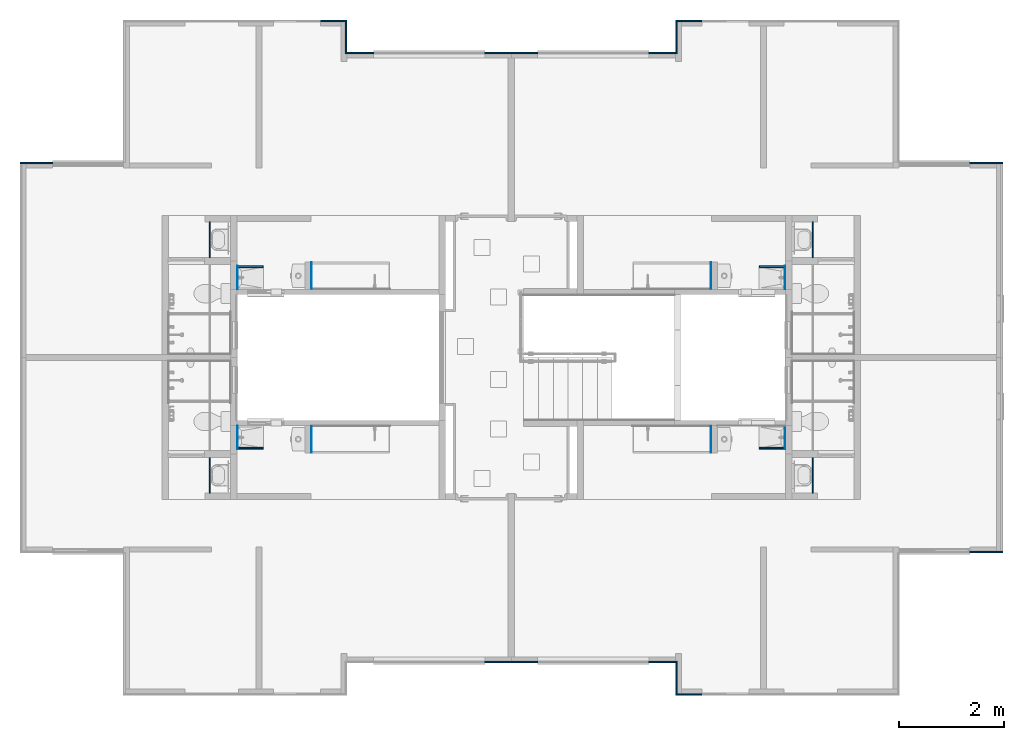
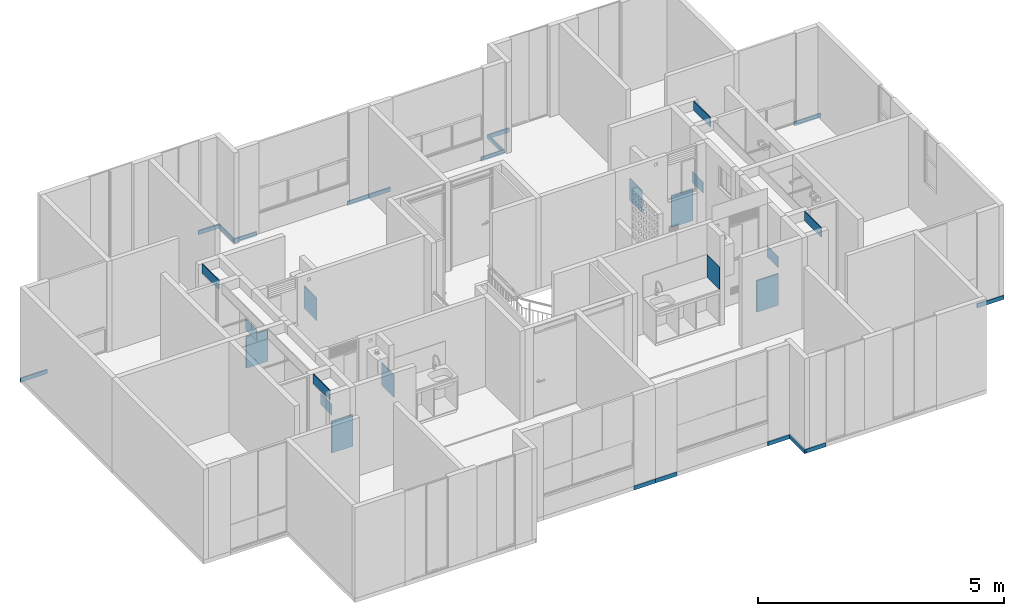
# One storey, part 28 of 47: 32 walls.
"""IFC4 building model written with IfcOpenShell, lengths in metres."""

from ifc_helpers import new_model, entity, si_unit, converted_unit, derived_unit, direction, frame, origin, place, context, subcontext, project, spatial, indexed_curve, outline, extrude, material, constituent, constituent_set, type_object, element, save


model = new_model("IFC4")

# Units and contexts
model_context = context("Model", 3, precision=1e-05, world=origin(), true_north=direction((6.123031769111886e-17, 1.0)))
body_context = subcontext(model_context, "Body", "Model", "MODEL_VIEW")
ifc_project = project(units=[si_unit("LENGTHUNIT", "METRE"), si_unit("AREAUNIT", "SQUARE_METRE"), si_unit("VOLUMEUNIT", "CUBIC_METRE"), converted_unit("PLANEANGLEUNIT", "DEGREE", entity("IfcRatioMeasure", 0.017453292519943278), si_unit("PLANEANGLEUNIT", "RADIAN"), dimensions=[0, 0, 0, 0, 0, 0, 0]), si_unit("MASSUNIT", "GRAM", prefix="KILO"), derived_unit("MASSDENSITYUNIT", [(si_unit("MASSUNIT", "GRAM", prefix="KILO"), 1), (si_unit("LENGTHUNIT", "METRE"), -3)]), derived_unit("IONCONCENTRATIONUNIT", [(si_unit("MASSUNIT", "GRAM", prefix="KILO"), 1), (si_unit("LENGTHUNIT", "METRE"), -3)]), derived_unit("MOMENTOFINERTIAUNIT", [(si_unit("LENGTHUNIT", "METRE"), 4)]), si_unit("TIMEUNIT", "SECOND"), si_unit("FREQUENCYUNIT", "HERTZ"), si_unit("THERMODYNAMICTEMPERATUREUNIT", "DEGREE_CELSIUS"), derived_unit("THERMALTRANSMITTANCEUNIT", [(si_unit("MASSUNIT", "GRAM", prefix="KILO"), 1), (si_unit("THERMODYNAMICTEMPERATUREUNIT", "KELVIN"), -1), (si_unit("TIMEUNIT", "SECOND"), -3)]), derived_unit("THERMALCONDUCTANCEUNIT", [(si_unit("MASSUNIT", "GRAM", prefix="KILO"), 1), (si_unit("THERMODYNAMICTEMPERATUREUNIT", "KELVIN"), -1), (si_unit("TIMEUNIT", "SECOND"), -3), (si_unit("LENGTHUNIT", "METRE"), 1)]), derived_unit("VOLUMETRICFLOWRATEUNIT", [(si_unit("LENGTHUNIT", "METRE"), 3), (si_unit("TIMEUNIT", "SECOND"), -1)]), derived_unit("MASSFLOWRATEUNIT", [(si_unit("MASSUNIT", "GRAM", prefix="KILO"), 1), (si_unit("TIMEUNIT", "SECOND"), -1)]), derived_unit("ROTATIONALFREQUENCYUNIT", [(si_unit("TIMEUNIT", "SECOND"), -1)]), si_unit("ELECTRICCURRENTUNIT", "AMPERE"), si_unit("ELECTRICVOLTAGEUNIT", "VOLT"), si_unit("POWERUNIT", "WATT"), si_unit("FORCEUNIT", "NEWTON", prefix="KILO"), si_unit("ILLUMINANCEUNIT", "LUX"), si_unit("LUMINOUSFLUXUNIT", "LUMEN"), si_unit("LUMINOUSINTENSITYUNIT", "CANDELA"), derived_unit("USERDEFINED", [(si_unit("MASSUNIT", "GRAM", prefix="KILO"), -1), (si_unit("LENGTHUNIT", "METRE"), -2), (si_unit("TIMEUNIT", "SECOND"), 3), (si_unit("LUMINOUSFLUXUNIT", "LUMEN"), 1)]), derived_unit("USERDEFINED", [(si_unit("MASSUNIT", "GRAM", prefix="KILO"), 1), (si_unit("TIMEUNIT", "SECOND"), -3), (si_unit("LENGTHUNIT", "METRE"), 3), (si_unit("ELECTRICCURRENTUNIT", "AMPERE"), -2)]), derived_unit("SOUNDPOWERUNIT", [(si_unit("MASSUNIT", "GRAM", prefix="KILO"), 1), (si_unit("TIMEUNIT", "SECOND"), -3), (si_unit("LENGTHUNIT", "METRE"), 2)]), derived_unit("SOUNDPRESSUREUNIT", [(si_unit("MASSUNIT", "GRAM", prefix="KILO"), 1), (si_unit("LENGTHUNIT", "METRE"), -1), (si_unit("TIMEUNIT", "SECOND"), -2)]), derived_unit("LINEARVELOCITYUNIT", [(si_unit("LENGTHUNIT", "METRE"), 1), (si_unit("TIMEUNIT", "SECOND"), -1)]), si_unit("PRESSUREUNIT", "PASCAL"), derived_unit("USERDEFINED", [(si_unit("MASSUNIT", "GRAM", prefix="KILO"), 1), (si_unit("LENGTHUNIT", "METRE"), -2), (si_unit("TIMEUNIT", "SECOND"), -2)]), derived_unit("LINEARFORCEUNIT", [(si_unit("MASSUNIT", "GRAM", prefix="KILO"), 1), (si_unit("TIMEUNIT", "SECOND"), -2)]), derived_unit("PLANARFORCEUNIT", [(si_unit("MASSUNIT", "GRAM", prefix="KILO"), 1), (si_unit("LENGTHUNIT", "METRE"), -1), (si_unit("TIMEUNIT", "SECOND"), -2)]), derived_unit("SPECIFICHEATCAPACITYUNIT", [(si_unit("THERMODYNAMICTEMPERATUREUNIT", "KELVIN"), -1), (si_unit("LENGTHUNIT", "METRE"), 2), (si_unit("TIMEUNIT", "SECOND"), -2)]), derived_unit("HEATINGVALUEUNIT", [(si_unit("LENGTHUNIT", "METRE"), 2), (si_unit("TIMEUNIT", "SECOND"), -2)]), derived_unit("VAPORPERMEABILITYUNIT", [(si_unit("LENGTHUNIT", "METRE"), -1), (si_unit("TIMEUNIT", "SECOND"), 1)]), derived_unit("DYNAMICVISCOSITYUNIT", [(si_unit("MASSUNIT", "GRAM", prefix="KILO"), 1), (si_unit("TIMEUNIT", "SECOND"), -1), (si_unit("LENGTHUNIT", "METRE"), -1)]), derived_unit("THERMALEXPANSIONCOEFFICIENTUNIT", [(si_unit("THERMODYNAMICTEMPERATUREUNIT", "KELVIN"), -1)]), derived_unit("MODULUSOFELASTICITYUNIT", [(si_unit("MASSUNIT", "GRAM", prefix="KILO"), 1), (si_unit("LENGTHUNIT", "METRE"), -1), (si_unit("TIMEUNIT", "SECOND"), -2)]), derived_unit("ISOTHERMALMOISTURECAPACITYUNIT", [(si_unit("LENGTHUNIT", "METRE"), 3), (si_unit("MASSUNIT", "GRAM", prefix="KILO"), -1)]), derived_unit("MOISTUREDIFFUSIVITYUNIT", [(si_unit("TIMEUNIT", "SECOND"), -1), (si_unit("LENGTHUNIT", "METRE"), 2)])], contexts=[model_context])

# Site, building, storey
site_placement = place(None, origin())
site = spatial("IfcSite", under=ifc_project, at=site_placement, Name="Default", CompositionType="ELEMENT")
building_placement = place(site_placement, origin())
building = spatial("IfcBuilding", under=site, at=building_placement, CompositionType="ELEMENT")
storey_placement = place(building_placement, frame((0.0, 0.0, 11.750000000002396)))
storey = spatial("IfcBuildingStorey", under=building, at=storey_placement, Name="Nivel 6", CompositionType="ELEMENT", Elevation=11.750000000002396)

# Walls
ifc_material_1 = material(Name="Plasterboard", Category="Materials")
wall_type_1 = type_object("IfcWallType", Name="Basic Wall:C1070 - 0.02m - Plafón - Drywall", PredefinedType="STANDARD")
wall_1_placement = place(storey_placement, frame((3.5624999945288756, -4.515000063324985, 2.019999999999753), z_axis=(0.0, 0.0, 1.0), x_axis=(0.0, 1.0, 0.0)))
element("IfcWall", 1, at=wall_1_placement, inside=storey, type_object=wall_type_1, material=ifc_material_1, Name="Basic Wall:C1070 - 0.02m - Plafón - Drywall", ObjectType="Basic Wall:C1070 - 0.02m - Plafón - Drywall", PredefinedType="NOTDEFINED", context=body_context, shape_type="SweptSolid", body=[
    extrude(outline(indexed_curve([(0.6800000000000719, 0.009999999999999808), (8.086221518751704e-17, 0.009999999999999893), (-8.086221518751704e-17, -0.009999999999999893), (0.6800000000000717, -0.009999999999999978), (0.6800000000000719, 0.009999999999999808)], self_intersect=False)), origin(), (0.0, 0.0, 1.0), 0.23000000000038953),
])
wall_2_placement = place(storey_placement, frame((3.5624999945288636, -8.334999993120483, 2.019999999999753), z_axis=(0.0, 0.0, 1.0), x_axis=(0.0, -1.0, 0.0)))
element("IfcWall", 2, at=wall_2_placement, inside=storey, type_object=wall_type_1, material=ifc_material_1, Name="Basic Wall:C1070 - 0.02m - Plafón - Drywall", ObjectType="Basic Wall:C1070 - 0.02m - Plafón - Drywall", PredefinedType="NOTDEFINED", context=body_context, shape_type="SweptSolid", body=[
    extrude(outline(indexed_curve([(0.6800000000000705, 0.009999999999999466), (-1.4500026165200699e-16, 0.009999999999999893), (1.4500026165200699e-16, -0.009999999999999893), (0.6800000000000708, -0.01000000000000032), (0.6800000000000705, 0.009999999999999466)], self_intersect=False)), origin(), (0.0, 0.0, 1.0), 0.23000000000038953),
])
wall_3_placement = place(storey_placement, frame((15.082500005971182, -4.515000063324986, 2.019999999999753), z_axis=(0.0, 0.0, 1.0), x_axis=(0.0, 1.0, 0.0)))
element("IfcWall", 3, at=wall_3_placement, inside=storey, type_object=wall_type_1, material=ifc_material_1, Name="Basic Wall:C1070 - 0.02m - Plafón - Drywall", ObjectType="Basic Wall:C1070 - 0.02m - Plafón - Drywall", PredefinedType="NOTDEFINED", context=body_context, shape_type="SweptSolid", body=[
    extrude(outline(indexed_curve([(0.6800000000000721, 0.01000000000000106), (-8.086221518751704e-17, 0.009999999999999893), (8.086221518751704e-17, -0.009999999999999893), (0.6800000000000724, -0.009999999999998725), (0.6800000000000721, 0.01000000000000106)], self_intersect=False)), origin(), (0.0, 0.0, 1.0), 0.23000000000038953),
])
wall_4_placement = place(storey_placement, frame((15.082500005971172, -8.334999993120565, 2.019999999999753), z_axis=(0.0, 0.0, 1.0), x_axis=(0.0, -1.0, 0.0)))
element("IfcWall", 4, at=wall_4_placement, inside=storey, type_object=wall_type_1, material=ifc_material_1, Name="Basic Wall:C1070 - 0.02m - Plafón - Drywall", ObjectType="Basic Wall:C1070 - 0.02m - Plafón - Drywall", PredefinedType="NOTDEFINED", context=body_context, shape_type="SweptSolid", body=[
    extrude(outline(indexed_curve([(0.6800000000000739, 0.009999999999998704), (1.74650790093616e-17, 0.009999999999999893), (-1.74650790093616e-17, -0.009999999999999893), (0.6800000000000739, -0.010000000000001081), (0.6800000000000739, 0.009999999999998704)], self_intersect=False)), origin(), (0.0, 0.0, 1.0), 0.23000000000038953),
])
ifc_material_2 = material(Name="Ceramica Salpicadero 0.28m x 0.45m", Category="Materials")
wall_type_2 = type_object("IfcWallType", Name="Basic Wall:C2010 - 0.28 x 0.45 - Salpicadero - Cerámica", PredefinedType="STANDARD")
wall_5_placement = place(storey_placement, frame((4.092499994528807, -4.67500002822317, 0.9299999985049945), z_axis=(0.0, 0.0, 1.0), x_axis=(0.0, -1.0, 0.0)))
element("IfcWall", 5, at=wall_5_placement, inside=storey, type_object=wall_type_2, material=ifc_material_2, Name="Basic Wall:C2010 - 0.28 x 0.45 - Salpicadero - Cerámica", ObjectType="Basic Wall:C2010 - 0.28 x 0.45 - Salpicadero - Cerámica", PredefinedType="NOTDEFINED", context=body_context, shape_type="SweptSolid", body=[
    extrude(outline(indexed_curve([(0.44949999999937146, 0.004999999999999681), (-8.738326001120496e-17, 0.004999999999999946), (8.738326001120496e-17, -0.004999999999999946), (0.4494999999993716, -0.005000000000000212), (0.44949999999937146, 0.004999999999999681)], self_intersect=False)), origin(), (0.0, 0.0, 1.0), 0.28000000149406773),
])
wall_6_placement = place(storey_placement, frame((4.092499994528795, -8.175000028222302, 0.9299999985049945), z_axis=(0.0, 0.0, 1.0), x_axis=(0.0, 1.0, 0.0)))
element("IfcWall", 6, at=wall_6_placement, inside=storey, type_object=wall_type_2, material=ifc_material_2, Name="Basic Wall:C2010 - 0.28 x 0.45 - Salpicadero - Cerámica", ObjectType="Basic Wall:C2010 - 0.28 x 0.45 - Salpicadero - Cerámica", PredefinedType="NOTDEFINED", context=body_context, shape_type="SweptSolid", body=[
    extrude(outline(indexed_curve([(0.4494999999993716, 0.004999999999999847), (5.531423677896e-17, 0.004999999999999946), (-5.531423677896e-17, -0.004999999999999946), (0.44949999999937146, -0.005000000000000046), (0.4494999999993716, 0.004999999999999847)], self_intersect=False)), origin(), (0.0, 0.0, 1.0), 0.28000000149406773),
])
wall_7_placement = place(storey_placement, frame((14.55250000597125, -4.67500002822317, 0.9299999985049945), z_axis=(0.0, 0.0, 1.0), x_axis=(0.0, -1.0, 0.0)))
element("IfcWall", 7, at=wall_7_placement, inside=storey, type_object=wall_type_2, material=ifc_material_2, Name="Basic Wall:C2010 - 0.28 x 0.45 - Salpicadero - Cerámica", ObjectType="Basic Wall:C2010 - 0.28 x 0.45 - Salpicadero - Cerámica", PredefinedType="NOTDEFINED", context=body_context, shape_type="SweptSolid", body=[
    extrude(outline(indexed_curve([(0.4494999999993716, 0.005000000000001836), (8.738326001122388e-17, 0.005000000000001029), (-8.738326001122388e-17, -0.005000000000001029), (0.44949999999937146, -0.005000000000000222), (0.4494999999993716, 0.005000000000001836)], self_intersect=False)), origin(), (0.0, 0.0, 1.0), 0.28000000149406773),
])
wall_8_placement = place(storey_placement, frame((14.55250000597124, -8.175000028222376, 0.9299999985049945), z_axis=(0.0, 0.0, 1.0), x_axis=(0.0, 1.0, 0.0)))
element("IfcWall", 8, at=wall_8_placement, inside=storey, type_object=wall_type_2, material=ifc_material_2, Name="Basic Wall:C2010 - 0.28 x 0.45 - Salpicadero - Cerámica", ObjectType="Basic Wall:C2010 - 0.28 x 0.45 - Salpicadero - Cerámica", PredefinedType="NOTDEFINED", context=body_context, shape_type="SweptSolid", body=[
    extrude(outline(indexed_curve([(0.4494999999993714, 0.005000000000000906), (-1.1908182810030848e-16, 0.005000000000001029), (1.1908182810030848e-16, -0.005000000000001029), (0.4494999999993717, -0.005000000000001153), (0.4494999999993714, 0.005000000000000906)], self_intersect=False)), origin(), (0.0, 0.0, 1.0), 0.28000000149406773),
])
wall_9_placement = place(storey_placement, frame((5.507499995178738, -4.605000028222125, 0.9299999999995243), z_axis=(0.0, 0.0, 1.0), x_axis=(0.0, -1.0, 0.0)))
element("IfcWall", 9, at=wall_9_placement, inside=storey, type_object=wall_type_2, material=ifc_material_2, Name="Basic Wall:C2010 - 0.28 x 0.45 - Salpicadero - Cerámica", ObjectType="Basic Wall:C2010 - 0.28 x 0.45 - Salpicadero - Cerámica", PredefinedType="NOTDEFINED", context=body_context, shape_type="SweptSolid", body=[
    extrude(outline(indexed_curve([(0.5100000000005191, 0.005000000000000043), (-2.217940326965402e-17, 0.004999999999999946), (2.217940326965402e-17, -0.004999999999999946), (0.5100000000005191, -0.00499999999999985), (0.5100000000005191, 0.005000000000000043)], self_intersect=False)), origin(), (0.0, 0.0, 1.0), 0.5599999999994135),
])
wall_10_placement = place(storey_placement, frame((5.507499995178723, -8.245000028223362, 0.9299999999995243), z_axis=(0.0, 0.0, 1.0), x_axis=(0.0, 1.0, 0.0)))
element("IfcWall", 10, at=wall_10_placement, inside=storey, type_object=wall_type_2, material=ifc_material_2, Name="Basic Wall:C2010 - 0.28 x 0.45 - Salpicadero - Cerámica", ObjectType="Basic Wall:C2010 - 0.28 x 0.45 - Salpicadero - Cerámica", PredefinedType="NOTDEFINED", context=body_context, shape_type="SweptSolid", body=[
    extrude(outline(indexed_curve([(0.5100000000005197, 0.0049999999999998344), (-9.519164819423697e-18, 0.004999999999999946), (9.519164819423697e-18, -0.004999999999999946), (0.5100000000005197, -0.005000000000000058), (0.5100000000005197, 0.0049999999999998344)], self_intersect=False)), origin(), (0.0, 0.0, 1.0), 0.5599999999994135),
])
wall_11_placement = place(storey_placement, frame((13.13750000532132, -4.605000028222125, 0.9299999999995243), z_axis=(0.0, 0.0, 1.0), x_axis=(0.0, -1.0, 0.0)))
element("IfcWall", 11, at=wall_11_placement, inside=storey, type_object=wall_type_2, material=ifc_material_2, Name="Basic Wall:C2010 - 0.28 x 0.45 - Salpicadero - Cerámica", ObjectType="Basic Wall:C2010 - 0.28 x 0.45 - Salpicadero - Cerámica", PredefinedType="NOTDEFINED", context=body_context, shape_type="SweptSolid", body=[
    extrude(outline(indexed_curve([(0.5100000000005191, 0.0050000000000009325), (2.2179403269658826e-17, 0.005000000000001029), (-2.2179403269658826e-17, -0.005000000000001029), (0.5100000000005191, -0.005000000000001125), (0.5100000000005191, 0.0050000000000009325)], self_intersect=False)), origin(), (0.0, 0.0, 1.0), 0.5599999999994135),
])
wall_12_placement = place(storey_placement, frame((13.137500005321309, -8.245000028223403, 0.9299999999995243), z_axis=(0.0, 0.0, 1.0), x_axis=(0.0, 1.0, 0.0)))
element("IfcWall", 12, at=wall_12_placement, inside=storey, type_object=wall_type_2, material=ifc_material_2, Name="Basic Wall:C2010 - 0.28 x 0.45 - Salpicadero - Cerámica", ObjectType="Basic Wall:C2010 - 0.28 x 0.45 - Salpicadero - Cerámica", PredefinedType="NOTDEFINED", context=body_context, shape_type="SweptSolid", body=[
    extrude(outline(indexed_curve([(0.5100000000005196, 0.00499999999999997), (-5.3311001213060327e-17, 0.005000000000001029), (5.3311001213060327e-17, -0.005000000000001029), (0.5100000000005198, -0.005000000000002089), (0.5100000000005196, 0.00499999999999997)], self_intersect=False)), origin(), (0.0, 0.0, 1.0), 0.5599999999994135),
])
ifc_material_3 = material(Name="Estuco y pintura", Category="Materials")
ifc_constituent_1 = constituent(ifc_material_3, Name="Estuco y pintura", Category="Materials")
ifc_material_4 = material(Name="0 muro divisorio", Category="Materials")
ifc_constituent_2 = constituent(ifc_material_4, Name="0 muro divisorio", Category="Materials")
ifc_constituent_3 = constituent(ifc_material_3, Name="Estuco y pintura (2)", Category="Materials")
ifc_constituent_set = constituent_set(constituents=[ifc_constituent_1, ifc_constituent_2, ifc_constituent_3], Name="Basic Wall:B2010 - 0.03m - Muro interior en estuco+pintura+ concreto+ estuco+ pintura")
wall_type_3 = type_object("IfcWallType", Name="Basic Wall:B2010 - 0.03m - Muro interior en estuco+pintura+ concreto+ estuco+ pintura", PredefinedType="STANDARD", material=ifc_constituent_set)
wall_13_placement = place(storey_placement, frame((4.087499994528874, -4.6920000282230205, 0.0)))
element("IfcWall", 13, at=wall_13_placement, inside=storey, type_object=wall_type_3, material=ifc_constituent_set, Name="Basic Wall:B2010 - 0.03m - Muro interior en estuco+pintura+ concreto+ estuco+ pintura", ObjectType="Basic Wall:B2010 - 0.03m - Muro interior en estuco+pintura+ concreto+ estuco+ pintura", PredefinedType="NOTDEFINED", context=body_context, shape_type="SweptSolid", body=[
    extrude(outline(indexed_curve([(-0.0009999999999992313, -0.25000023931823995), (0.0010000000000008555, -0.25000023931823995), (0.0009999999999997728, 0.2500002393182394), (-0.001000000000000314, 0.2500002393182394), (-0.0009999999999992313, -0.25000023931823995)], self_intersect=False)), frame((0.25000023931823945, -0.016000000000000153, 0.0), z_axis=(0.0, 0.0, 1.0), x_axis=(0.0, 1.0, 0.0)), (0.0, 0.0, 1.0), 0.779999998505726),
    extrude(outline(indexed_curve([(-0.0009999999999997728, -0.25000023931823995), (0.001000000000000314, -0.25000023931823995), (0.0009999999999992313, 0.2500002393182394), (-0.0010000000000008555, 0.2500002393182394), (-0.0009999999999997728, -0.25000023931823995)], self_intersect=False)), frame((0.25000023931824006, 0.015999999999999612, 0.0), z_axis=(0.0, 0.0, 1.0), x_axis=(0.0, -1.0, 0.0)), (0.0, 0.0, 1.0), 0.779999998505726),
    extrude(outline(indexed_curve([(-0.25000023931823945, -0.01500000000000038), (0.2500002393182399, -0.01500000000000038), (0.25000023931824, 0.014999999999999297), (-0.2500002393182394, 0.014999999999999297), (-0.25000023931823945, -0.01500000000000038)], self_intersect=False)), frame((0.25000023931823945, 0.0, 0.0)), (0.0, 0.0, 1.0), 0.779999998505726),
])
wall_14_placement = place(storey_placement, frame((4.087499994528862, -8.158000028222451, 0.0)))
element("IfcWall", 14, at=wall_14_placement, inside=storey, type_object=wall_type_3, material=ifc_constituent_set, Name="Basic Wall:B2010 - 0.03m - Muro interior en estuco+pintura+ concreto+ estuco+ pintura", ObjectType="Basic Wall:B2010 - 0.03m - Muro interior en estuco+pintura+ concreto+ estuco+ pintura", PredefinedType="NOTDEFINED", context=body_context, shape_type="SweptSolid", body=[
    extrude(outline(indexed_curve([(-0.0010000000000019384, -0.25000023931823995), (0.0009999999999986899, -0.25000023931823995), (0.0010000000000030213, 0.2500002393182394), (-0.000999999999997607, 0.2500002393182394), (-0.0010000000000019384, -0.25000023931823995)], self_intersect=False)), frame((0.2500002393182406, 0.016000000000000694, 0.0), z_axis=(0.0, 0.0, 1.0), x_axis=(0.0, -1.0, 0.0)), (0.0, 0.0, 1.0), 0.779999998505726),
    extrude(outline(indexed_curve([(-0.0010000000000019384, -0.25000023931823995), (0.000999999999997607, -0.25000023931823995), (0.0010000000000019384, 0.2500002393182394), (-0.000999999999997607, 0.2500002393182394), (-0.0010000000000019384, -0.25000023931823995)], self_intersect=False)), frame((0.25000023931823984, -0.015999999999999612, 0.0), z_axis=(0.0, 0.0, 1.0), x_axis=(0.0, 1.0, 0.0)), (0.0, 0.0, 1.0), 0.779999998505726),
    extrude(outline(indexed_curve([(-0.25000023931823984, -0.014999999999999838), (0.25000023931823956, -0.014999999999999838), (0.25000023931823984, 0.014999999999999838), (-0.25000023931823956, 0.014999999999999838), (-0.25000023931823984, -0.014999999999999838)], self_intersect=False)), frame((0.25000023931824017, 0.0, 0.0)), (0.0, 0.0, 1.0), 0.779999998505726),
])
wall_15_placement = place(storey_placement, frame((14.557500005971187, -4.6920000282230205, 0.0), z_axis=(0.0, 0.0, 1.0), x_axis=(-1.0, 0.0, 0.0)))
element("IfcWall", 15, at=wall_15_placement, inside=storey, type_object=wall_type_3, material=ifc_constituent_set, Name="Basic Wall:B2010 - 0.03m - Muro interior en estuco+pintura+ concreto+ estuco+ pintura", ObjectType="Basic Wall:B2010 - 0.03m - Muro interior en estuco+pintura+ concreto+ estuco+ pintura", PredefinedType="NOTDEFINED", context=body_context, shape_type="SweptSolid", body=[
    extrude(outline(indexed_curve([(-0.0010000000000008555, -0.25000023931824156), (0.0009999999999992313, -0.25000023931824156), (0.001000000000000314, 0.2500002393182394), (-0.0009999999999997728, 0.2500002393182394), (-0.0010000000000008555, -0.25000023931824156)], self_intersect=False)), frame((0.25000023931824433, 0.015999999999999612, 0.0), z_axis=(0.0, 0.0, 1.0), x_axis=(0.0, -1.0, 0.0)), (0.0, 0.0, 1.0), 0.779999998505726),
    extrude(outline(indexed_curve([(-0.001000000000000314, -0.25000023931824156), (0.0009999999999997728, -0.25000023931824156), (0.0010000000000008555, 0.25000023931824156), (-0.0009999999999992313, 0.25000023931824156), (-0.001000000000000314, -0.25000023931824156)], self_intersect=False)), frame((0.2500002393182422, -0.016000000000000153, 0.0), z_axis=(0.0, 0.0, 1.0), x_axis=(0.0, 1.0, 0.0)), (0.0, 0.0, 1.0), 0.779999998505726),
    extrude(outline(indexed_curve([(-0.25000023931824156, -0.01500000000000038), (0.2500002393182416, -0.01500000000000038), (0.25000023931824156, 0.014999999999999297), (-0.25000023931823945, 0.014999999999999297), (-0.25000023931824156, -0.01500000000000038)], self_intersect=False)), frame((0.25000023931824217, 0.0, 0.0)), (0.0, 0.0, 1.0), 0.779999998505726),
])
wall_16_placement = place(storey_placement, frame((14.557500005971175, -8.158000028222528, 0.0), z_axis=(0.0, 0.0, 1.0), x_axis=(-1.0, 0.0, 0.0)))
element("IfcWall", 16, at=wall_16_placement, inside=storey, type_object=wall_type_3, material=ifc_constituent_set, Name="Basic Wall:B2010 - 0.03m - Muro interior en estuco+pintura+ concreto+ estuco+ pintura", ObjectType="Basic Wall:B2010 - 0.03m - Muro interior en estuco+pintura+ concreto+ estuco+ pintura", PredefinedType="NOTDEFINED", context=body_context, shape_type="SweptSolid", body=[
    extrude(outline(indexed_curve([(-0.0010000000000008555, -0.2500002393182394), (0.0009999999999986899, -0.2500002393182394), (0.0010000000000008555, 0.2500002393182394), (-0.0009999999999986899, 0.2500002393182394), (-0.0010000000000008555, -0.2500002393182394)], self_intersect=False)), frame((0.25000023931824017, -0.015999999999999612, 0.0), z_axis=(0.0, 0.0, 1.0), x_axis=(0.0, 1.0, 0.0)), (0.0, 0.0, 1.0), 0.779999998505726),
    extrude(outline(indexed_curve([(-0.0010000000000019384, -0.2500002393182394), (0.0009999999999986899, -0.2500002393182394), (0.0010000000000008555, 0.2500002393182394), (-0.0009999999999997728, 0.2500002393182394), (-0.0010000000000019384, -0.2500002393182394)], self_intersect=False)), frame((0.25000023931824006, 0.015999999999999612, 0.0), z_axis=(0.0, 0.0, 1.0), x_axis=(0.0, -1.0, 0.0)), (0.0, 0.0, 1.0), 0.779999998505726),
    extrude(outline(indexed_curve([(-0.25000023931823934, -0.014999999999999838), (0.25000023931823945, -0.014999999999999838), (0.25000023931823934, 0.014999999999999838), (-0.25000023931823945, 0.014999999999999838), (-0.25000023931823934, -0.014999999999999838)], self_intersect=False)), frame((0.2500002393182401, 0.0, 0.0)), (0.0, 0.0, 1.0), 0.779999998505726),
])
ifc_material_5 = material(Name="LADRILLO CLARO", Category="Materials")
wall_type_4 = type_object("IfcWallType", Name="Basic Wall:B2010 - 0.03m - ME enchape  no estructural - Ladrillo", PredefinedType="STANDARD")
wall_17_placement = place(storey_placement, frame((9.322500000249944, -0.6100000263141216, -0.10000000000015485), z_axis=(0.0, 0.0, 1.0), x_axis=(-1.0, 0.0, 0.0)))
element("IfcWall", 17, at=wall_17_placement, inside=storey, type_object=wall_type_4, material=ifc_material_5, Name="Basic Wall:B2010 - 0.03m - ME enchape  no estructural - Ladrillo", ObjectType="Basic Wall:B2010 - 0.03m - ME enchape  no estructural - Ladrillo", PredefinedType="NOTDEFINED", context=body_context, shape_type="SweptSolid", body=[
    extrude(outline(indexed_curve([(0.5049999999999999, 0.015000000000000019), (-5.3566291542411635e-17, 0.014999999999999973), (5.3566291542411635e-17, -0.014999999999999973), (0.505, -0.014999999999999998), (0.5049999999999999, 0.015000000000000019)], self_intersect=False)), origin(), (0.0, 0.0, 1.0), 0.09999999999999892),
])
wall_18_placement = place(storey_placement, frame((6.167499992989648, -0.5950000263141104, -0.10000000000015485), z_axis=(0.0, 0.0, 1.0), x_axis=(0.0, 1.0, 0.0)))
element("IfcWall", 18, at=wall_18_placement, inside=storey, type_object=wall_type_4, material=ifc_material_5, Name="Basic Wall:B2010 - 0.03m - ME enchape  no estructural - Ladrillo", ObjectType="Basic Wall:B2010 - 0.03m - ME enchape  no estructural - Ladrillo", PredefinedType="NOTDEFINED", context=body_context, shape_type="SweptSolid", body=[
    extrude(outline(indexed_curve([(0.6150000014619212, 0.014999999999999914), (-1.83697019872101e-18, 0.014999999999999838), (1.83697019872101e-18, -0.014999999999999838), (0.6150000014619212, -0.014999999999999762), (0.6150000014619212, 0.014999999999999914)], self_intersect=False)), origin(), (0.0, 0.0, 1.0), 0.09999999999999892),
])
wall_19_placement = place(storey_placement, frame((6.1524999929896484, 0.004999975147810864, -0.10000000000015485), z_axis=(0.0, 0.0, 1.0), x_axis=(-1.0, 0.0, 0.0)))
element("IfcWall", 19, at=wall_19_placement, inside=storey, type_object=wall_type_4, material=ifc_material_5, Name="Basic Wall:B2010 - 0.03m - ME enchape  no estructural - Ladrillo", ObjectType="Basic Wall:B2010 - 0.03m - ME enchape  no estructural - Ladrillo", PredefinedType="NOTDEFINED", context=body_context, shape_type="SweptSolid", body=[
    extrude(outline(indexed_curve([(0.46999999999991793, 0.015), (-1.4243869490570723e-16, 0.015), (1.4243869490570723e-16, -0.015), (0.4699999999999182, -0.015), (0.46999999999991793, 0.015)], self_intersect=False)), origin(), (0.0, 0.0, 1.0), 0.09999999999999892),
])
wall_20_placement = place(storey_placement, frame((-0.05749999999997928, -2.710000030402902, -0.10000000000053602)))
element("IfcWall", 20, at=wall_20_placement, inside=storey, type_object=wall_type_4, material=ifc_material_5, Name="Basic Wall:B2010 - 0.03m - ME enchape  no estructural - Ladrillo", ObjectType="Basic Wall:B2010 - 0.03m - ME enchape  no estructural - Ladrillo", PredefinedType="NOTDEFINED", context=body_context, shape_type="SweptSolid", body=[
    extrude(outline(indexed_curve([(0.6249999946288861, 0.014999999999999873), (2.443197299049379e-18, 0.014999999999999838), (-2.443197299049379e-18, -0.014999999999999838), (0.6249999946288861, -0.014999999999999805), (0.6249999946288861, 0.014999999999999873)], self_intersect=False)), origin(), (0.0, 0.0, 1.0), 0.09999999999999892),
])
wall_21_placement = place(storey_placement, frame((9.322500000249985, -12.240000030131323, -0.10000000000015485), z_axis=(0.0, 0.0, 1.0), x_axis=(-1.0, 0.0, 0.0)))
element("IfcWall", 21, at=wall_21_placement, inside=storey, type_object=wall_type_4, material=ifc_material_5, Name="Basic Wall:B2010 - 0.03m - ME enchape  no estructural - Ladrillo", ObjectType="Basic Wall:B2010 - 0.03m - ME enchape  no estructural - Ladrillo", PredefinedType="NOTDEFINED", context=body_context, shape_type="SweptSolid", body=[
    extrude(outline(indexed_curve([(0.505, 0.015000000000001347), (5.1729321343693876e-17, 0.015000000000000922), (-5.1729321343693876e-17, -0.015000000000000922), (0.5049999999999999, -0.015000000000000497), (0.505, 0.015000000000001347)], self_intersect=False)), origin(), (0.0, 0.0, 1.0), 0.09999999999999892),
])
wall_22_placement = place(storey_placement, frame((9.322500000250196, -0.6100000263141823, -0.10000000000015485)))
element("IfcWall", 22, at=wall_22_placement, inside=storey, type_object=wall_type_4, material=ifc_material_5, Name="Basic Wall:B2010 - 0.03m - ME enchape  no estructural - Ladrillo", ObjectType="Basic Wall:B2010 - 0.03m - ME enchape  no estructural - Ladrillo", PredefinedType="NOTDEFINED", context=body_context, shape_type="SweptSolid", body=[
    extrude(outline(indexed_curve([(0.5049999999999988, 0.014999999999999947), (-4.7460613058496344e-17, 0.014999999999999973), (4.7460613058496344e-17, -0.014999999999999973), (0.504999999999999, -0.015000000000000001), (0.5049999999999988, 0.014999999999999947)], self_intersect=False)), origin(), (0.0, 0.0, 1.0), 0.09999999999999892),
])
wall_23_placement = place(storey_placement, frame((12.47750000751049, -0.5950000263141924, -0.10000000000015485), z_axis=(0.0, 0.0, 1.0), x_axis=(0.0, 1.0, 0.0)))
element("IfcWall", 23, at=wall_23_placement, inside=storey, type_object=wall_type_4, material=ifc_material_5, Name="Basic Wall:B2010 - 0.03m - ME enchape  no estructural - Ladrillo", ObjectType="Basic Wall:B2010 - 0.03m - ME enchape  no estructural - Ladrillo", PredefinedType="NOTDEFINED", context=body_context, shape_type="SweptSolid", body=[
    extrude(outline(indexed_curve([(0.6150000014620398, 0.015000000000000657), (-3.151073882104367e-17, 0.015000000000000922), (3.151073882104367e-17, -0.015000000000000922), (0.6150000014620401, -0.015000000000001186), (0.6150000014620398, 0.015000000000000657)], self_intersect=False)), origin(), (0.0, 0.0, 1.0), 0.09999999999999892),
])
wall_24_placement = place(storey_placement, frame((12.492500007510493, 0.0049999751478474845, -0.10000000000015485)))
element("IfcWall", 24, at=wall_24_placement, inside=storey, type_object=wall_type_4, material=ifc_material_5, Name="Basic Wall:B2010 - 0.03m - ME enchape  no estructural - Ladrillo", ObjectType="Basic Wall:B2010 - 0.03m - ME enchape  no estructural - Ladrillo", PredefinedType="NOTDEFINED", context=body_context, shape_type="SweptSolid", body=[
    extrude(outline(indexed_curve([(0.4699999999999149, 0.015), (4.3864338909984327e-17, 0.015), (-4.3864338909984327e-17, -0.015), (0.46999999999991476, -0.015), (0.4699999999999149, 0.015)], self_intersect=False)), origin(), (0.0, 0.0, 1.0), 0.09999999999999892),
])
wall_25_placement = place(storey_placement, frame((18.702500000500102, -2.710000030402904, -0.10000000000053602), z_axis=(0.0, 0.0, 1.0), x_axis=(-1.0, 0.0, 0.0)))
element("IfcWall", 25, at=wall_25_placement, inside=storey, type_object=wall_type_4, material=ifc_material_5, Name="Basic Wall:B2010 - 0.03m - ME enchape  no estructural - Ladrillo", ObjectType="Basic Wall:B2010 - 0.03m - ME enchape  no estructural - Ladrillo", PredefinedType="NOTDEFINED", context=body_context, shape_type="SweptSolid", body=[
    extrude(outline(indexed_curve([(0.624999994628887, 0.014999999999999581), (3.050576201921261e-16, 0.014999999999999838), (-3.050576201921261e-16, -0.014999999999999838), (0.6249999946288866, -0.015000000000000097), (0.624999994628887, 0.014999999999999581)], self_intersect=False)), origin(), (0.0, 0.0, 1.0), 0.09999999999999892),
])
wall_26_placement = place(storey_placement, frame((9.322500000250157, -12.240000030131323, -0.10000000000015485)))
element("IfcWall", 26, at=wall_26_placement, inside=storey, type_object=wall_type_4, material=ifc_material_5, Name="Basic Wall:B2010 - 0.03m - ME enchape  no estructural - Ladrillo", ObjectType="Basic Wall:B2010 - 0.03m - ME enchape  no estructural - Ladrillo", PredefinedType="NOTDEFINED", context=body_context, shape_type="SweptSolid", body=[
    extrude(outline(indexed_curve([(0.5049999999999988, 0.015000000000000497), (-5.1729321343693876e-17, 0.015000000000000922), (5.1729321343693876e-17, -0.015000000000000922), (0.504999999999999, -0.015000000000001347), (0.5049999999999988, 0.015000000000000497)], self_intersect=False)), origin(), (0.0, 0.0, 1.0), 0.09999999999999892),
])
wall_27_placement = place(storey_placement, frame((12.477500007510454, -12.255000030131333, -0.10000000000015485), z_axis=(0.0, 0.0, 1.0), x_axis=(0.0, -1.0, 0.0)))
element("IfcWall", 27, at=wall_27_placement, inside=storey, type_object=wall_type_4, material=ifc_material_5, Name="Basic Wall:B2010 - 0.03m - ME enchape  no estructural - Ladrillo", ObjectType="Basic Wall:B2010 - 0.03m - ME enchape  no estructural - Ladrillo", PredefinedType="NOTDEFINED", context=body_context, shape_type="SweptSolid", body=[
    extrude(outline(indexed_curve([(0.6150000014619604, 0.015000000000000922), (0.0, 0.015000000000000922), (0.0, -0.015000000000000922), (0.6150000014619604, -0.015000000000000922), (0.6150000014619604, 0.015000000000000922)], self_intersect=False)), origin(), (0.0, 0.0, 1.0), 0.09999999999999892),
])
wall_28_placement = place(storey_placement, frame((12.492500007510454, -12.855000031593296, -0.10000000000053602)))
element("IfcWall", 28, at=wall_28_placement, inside=storey, type_object=wall_type_4, material=ifc_material_5, Name="Basic Wall:B2010 - 0.03m - ME enchape  no estructural - Ladrillo", ObjectType="Basic Wall:B2010 - 0.03m - ME enchape  no estructural - Ladrillo", PredefinedType="NOTDEFINED", context=body_context, shape_type="SweptSolid", body=[
    extrude(outline(indexed_curve([(0.4699999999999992, 0.015000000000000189), (-4.570130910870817e-17, 0.015000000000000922), (4.570130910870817e-17, -0.015000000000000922), (0.46999999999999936, -0.015000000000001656), (0.4699999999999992, 0.015000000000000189)], self_intersect=False)), origin(), (0.0, 0.0, 1.0), 0.09999999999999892),
])
wall_29_placement = place(storey_placement, frame((18.702500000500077, -10.140000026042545, -0.10000000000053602), z_axis=(0.0, 0.0, 1.0), x_axis=(-1.0, 0.0, 0.0)))
element("IfcWall", 29, at=wall_29_placement, inside=storey, type_object=wall_type_4, material=ifc_material_5, Name="Basic Wall:B2010 - 0.03m - ME enchape  no estructural - Ladrillo", ObjectType="Basic Wall:B2010 - 0.03m - ME enchape  no estructural - Ladrillo", PredefinedType="NOTDEFINED", context=body_context, shape_type="SweptSolid", body=[
    extrude(outline(indexed_curve([(0.6249999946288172, 0.015000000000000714), (-3.068945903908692e-16, 0.015000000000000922), (3.068945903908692e-16, -0.015000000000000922), (0.6249999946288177, -0.015000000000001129), (0.6249999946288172, 0.015000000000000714)], self_intersect=False)), origin(), (0.0, 0.0, 1.0), 0.09999999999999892),
])
wall_30_placement = place(storey_placement, frame((11.952500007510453, -12.240000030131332, -0.10000000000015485)))
element("IfcWall", 30, at=wall_30_placement, inside=storey, type_object=wall_type_4, material=ifc_material_5, Name="Basic Wall:B2010 - 0.03m - ME enchape  no estructural - Ladrillo", ObjectType="Basic Wall:B2010 - 0.03m - ME enchape  no estructural - Ladrillo", PredefinedType="NOTDEFINED", context=body_context, shape_type="SweptSolid", body=[
    extrude(outline(indexed_curve([(0.5400000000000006, 0.015000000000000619), (-5.1729321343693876e-17, 0.015000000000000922), (5.1729321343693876e-17, -0.015000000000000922), (0.5400000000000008, -0.015000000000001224), (0.5400000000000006, 0.015000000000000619)], self_intersect=False)), origin(), (0.0, 0.0, 1.0), 0.09999999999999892),
])
wall_31_placement = place(storey_placement, frame((11.952500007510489, -0.6100000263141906, -0.10000000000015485)))
element("IfcWall", 31, at=wall_31_placement, inside=storey, type_object=wall_type_4, material=ifc_material_5, Name="Basic Wall:B2010 - 0.03m - ME enchape  no estructural - Ladrillo", ObjectType="Basic Wall:B2010 - 0.03m - ME enchape  no estructural - Ladrillo", PredefinedType="NOTDEFINED", context=body_context, shape_type="SweptSolid", body=[
    extrude(outline(indexed_curve([(0.5400000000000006, 0.014999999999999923), (-4.746061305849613e-17, 0.014999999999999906), (4.7460613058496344e-17, -0.014999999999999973), (0.5400000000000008, -0.015000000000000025), (0.5400000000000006, 0.014999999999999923)], self_intersect=False)), origin(), (0.0, 0.0, 1.0), 0.09999999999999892),
])
wall_32_placement = place(storey_placement, frame((6.6924999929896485, -0.6100000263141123, -0.10000000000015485), z_axis=(0.0, 0.0, 1.0), x_axis=(-1.0, 0.0, 0.0)))
element("IfcWall", 32, at=wall_32_placement, inside=storey, type_object=wall_type_4, material=ifc_material_5, Name="Basic Wall:B2010 - 0.03m - ME enchape  no estructural - Ladrillo", ObjectType="Basic Wall:B2010 - 0.03m - ME enchape  no estructural - Ladrillo", PredefinedType="NOTDEFINED", context=body_context, shape_type="SweptSolid", body=[
    extrude(outline(indexed_curve([(0.5399999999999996, 0.014999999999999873), (-5.3566291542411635e-17, 0.014999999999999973), (5.356629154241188e-17, -0.015000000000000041), (0.5399999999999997, -0.015000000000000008), (0.5399999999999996, 0.014999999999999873)], self_intersect=False)), origin(), (0.0, 0.0, 1.0), 0.09999999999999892),
])

save(model, "model.ifc")
